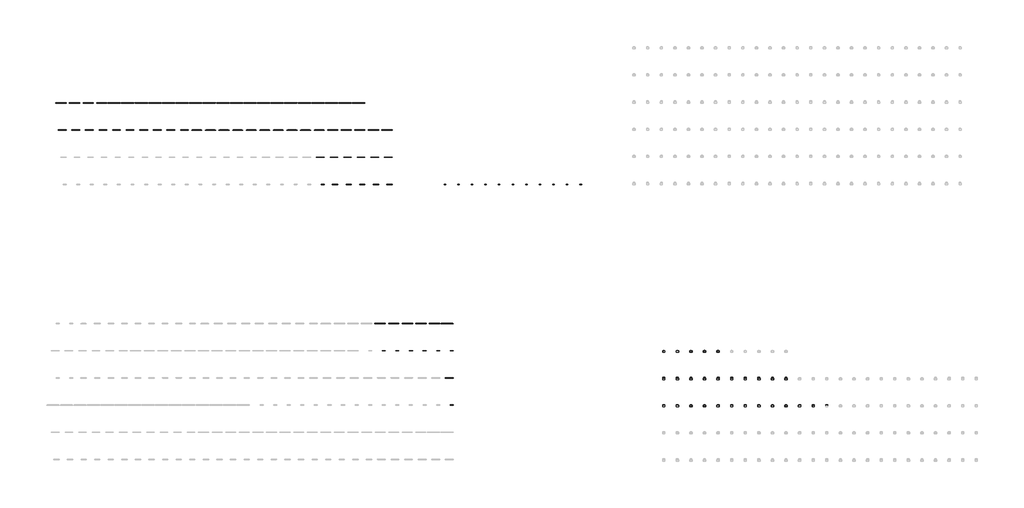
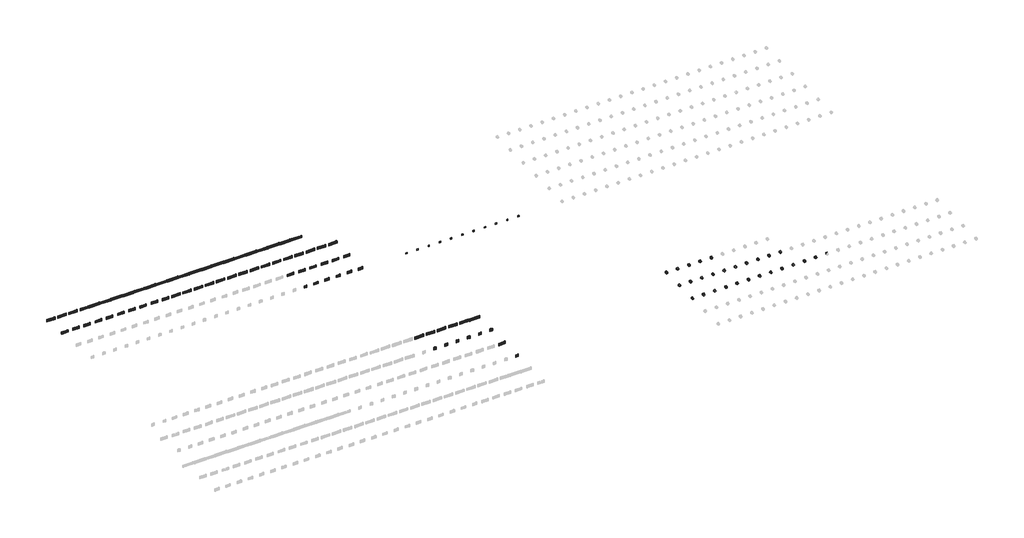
# One storey, part 4 of 18: 113 proxies, 27 cable carrier fittings.
"""IFC4 building model written with IfcOpenShell, lengths in millimetres."""

from ifc_helpers import new_model, si_unit, origin, place, context, project, spatial, transform, mapped, element, save
from components import electrical_fixtures_96edac8a, electrical_fixtures_76136ebe, electrical_fixtures_84155418, electrical_fixtures_f44dfe37, electrical_fixtures_1d4d6cfc, electrical_fixtures_f4518cee, electrical_fixtures_70e5a59e, electrical_fixtures_55b0cb72, electrical_fixtures_51af6a40, electrical_fixtures_b3d71306, electrical_fixtures_850c403c, electrical_fixtures_dbfd30bd, electrical_fixtures_5f74ea1d, electrical_fixtures_3bda5ce9, electrical_fixtures_2aa38369, electrical_fixtures_70c48a39, electrical_fixtures_173ac67f, electrical_fixtures_2d9b2c9f, electrical_fixtures_64208359, electrical_fixtures_7349d3a5, electrical_fixtures_e03153dd, cable_carrier_fitting_a64d4eba

model = new_model("IFC4")

# Units and contexts
model_context = context("Model", 3, world=origin())
ifc_project = project(units=[si_unit("LENGTHUNIT", "METRE", prefix="MILLI")], contexts=[model_context])

# Site, building, storey
site = spatial("IfcSite", under=ifc_project)
building = spatial("IfcBuilding", under=site)
storey = spatial("IfcBuildingStorey", under=building, Name="Этаж 01", Elevation=0.0)

# Proxies
placement = place(None, origin())
electrical_fixtures_shape = electrical_fixtures_96edac8a(model_context)
element("IfcBuildingElementProxy", 1, Name="IEK_Brite_Рамка : x1_РУ-1-2-БрВа стекло ванильный", ObjectType="IEK_Brite_Рамка : x1_РУ-1-2-БрВа стекло ванильный", at=placement, inside=storey, context=model_context, shape_type="MappedRepresentation", body=[
    mapped(electrical_fixtures_shape, transform((12020.0, -15400.0, 0.0), x_axis=(1.0, 0.0, 0.0), y_axis=(0.0, 1.0, 0.0), z_axis=(0.0, 0.0, 1.0))),
])
electrical_fixtures_2_shape = electrical_fixtures_76136ebe(model_context)
element("IfcBuildingElementProxy", 2, Name="IEK_Brite_Рамка : x3_РУ-3-2-Бр стекло песчаный RE", ObjectType="IEK_Brite_Рамка : x3_РУ-3-2-Бр стекло песчаный RE", at=placement, inside=storey, context=model_context, shape_type="MappedRepresentation", body=[
    mapped(electrical_fixtures_2_shape, transform((12020.0, -14600.0, 0.0), x_axis=(1.0, 0.0, 0.0), y_axis=(0.0, 1.0, 0.0), z_axis=(0.0, 0.0, 1.0))),
])
electrical_fixtures_3_shape = electrical_fixtures_84155418(model_context)
element("IfcBuildingElementProxy", 3, Name="IEK_Brite_Рамка : x1_РУ-1-1-Бр металл черн. RE", ObjectType="IEK_Brite_Рамка : x1_РУ-1-1-Бр металл черн. RE", at=placement, inside=storey, context=model_context, shape_type="MappedRepresentation", body=[
    mapped(electrical_fixtures_3_shape, transform((10020.0, -13800.0, 0.0), x_axis=(1.0, 0.0, 0.0), y_axis=(0.0, 1.0, 0.0), z_axis=(0.0, 0.0, 1.0))),
])
element("IfcBuildingElementProxy", 4, Name="IEK_Brite_Рамка : x1_РУ-1-1-Бр металл алюм. RE", ObjectType="IEK_Brite_Рамка : x1_РУ-1-1-Бр металл алюм. RE", at=placement, inside=storey, context=model_context, shape_type="MappedRepresentation", body=[
    mapped(electrical_fixtures_3_shape, transform((10420.0, -13800.0, 0.0), x_axis=(1.0, 0.0, 0.0), y_axis=(0.0, 1.0, 0.0), z_axis=(0.0, 0.0, 1.0))),
])
element("IfcBuildingElementProxy", 5, Name="IEK_Brite_Рамка : x1_РУ-1-1-Бр металл титан RE", ObjectType="IEK_Brite_Рамка : x1_РУ-1-1-Бр металл титан RE", at=placement, inside=storey, context=model_context, shape_type="MappedRepresentation", body=[
    mapped(electrical_fixtures_3_shape, transform((10820.0, -13800.0, 0.0), x_axis=(1.0, 0.0, 0.0), y_axis=(0.0, 1.0, 0.0), z_axis=(0.0, 0.0, 1.0))),
])
element("IfcBuildingElementProxy", 6, Name="IEK_Brite_Рамка : x1_РУ-1-1-Бр металл латунь RE", ObjectType="IEK_Brite_Рамка : x1_РУ-1-1-Бр металл латунь RE", at=placement, inside=storey, context=model_context, shape_type="MappedRepresentation", body=[
    mapped(electrical_fixtures_3_shape, transform((11220.0, -13800.0, 0.0), x_axis=(1.0, 0.0, 0.0), y_axis=(0.0, 1.0, 0.0), z_axis=(0.0, 0.0, 1.0))),
])
element("IfcBuildingElementProxy", 7, Name="IEK_Brite_Рамка : x1_РУ-1-1-Бр металл коричн. RE", ObjectType="IEK_Brite_Рамка : x1_РУ-1-1-Бр металл коричн. RE", at=placement, inside=storey, context=model_context, shape_type="MappedRepresentation", body=[
    mapped(electrical_fixtures_3_shape, transform((11620.0, -13800.0, 0.0), x_axis=(1.0, 0.0, 0.0), y_axis=(0.0, 1.0, 0.0), z_axis=(0.0, 0.0, 1.0))),
])
element("IfcBuildingElementProxy", 8, Name="IEK_Brite_Рамка : x1_РУ-1-1-Бр металл шамп. RE", ObjectType="IEK_Brite_Рамка : x1_РУ-1-1-Бр металл шамп. RE", at=placement, inside=storey, context=model_context, shape_type="MappedRepresentation", body=[
    mapped(electrical_fixtures_3_shape, transform((12020.0, -13800.0, 0.0), x_axis=(1.0, 0.0, 0.0), y_axis=(0.0, 1.0, 0.0), z_axis=(0.0, 0.0, 1.0))),
])
electrical_fixtures_4_shape = electrical_fixtures_f44dfe37(model_context)
element("IfcBuildingElementProxy", 9, Name="IEK_Brite_Рамка : x4_РУ-4-1-Бр металл латунь RE", ObjectType="IEK_Brite_Рамка : x4_РУ-4-1-Бр металл латунь RE", at=placement, inside=storey, context=model_context, shape_type="MappedRepresentation", body=[
    mapped(electrical_fixtures_4_shape, transform((10020.0, -13000.0, 0.0), x_axis=(1.0, 0.0, 0.0), y_axis=(0.0, 1.0, 0.0), z_axis=(0.0, 0.0, 1.0))),
])
element("IfcBuildingElementProxy", 10, Name="IEK_Brite_Рамка : x4_РУ-4-1-Бр металл коричн. RE", ObjectType="IEK_Brite_Рамка : x4_РУ-4-1-Бр металл коричн. RE", at=placement, inside=storey, context=model_context, shape_type="MappedRepresentation", body=[
    mapped(electrical_fixtures_4_shape, transform((10420.0, -13000.0, 0.0), x_axis=(1.0, 0.0, 0.0), y_axis=(0.0, 1.0, 0.0), z_axis=(0.0, 0.0, 1.0))),
])
element("IfcBuildingElementProxy", 11, Name="IEK_Brite_Рамка : x4_РУ-4-1-Бр металл шамп. RE", ObjectType="IEK_Brite_Рамка : x4_РУ-4-1-Бр металл шамп. RE", at=placement, inside=storey, context=model_context, shape_type="MappedRepresentation", body=[
    mapped(electrical_fixtures_4_shape, transform((10820.0, -13000.0, 0.0), x_axis=(1.0, 0.0, 0.0), y_axis=(0.0, 1.0, 0.0), z_axis=(0.0, 0.0, 1.0))),
])
electrical_fixtures_5_shape = electrical_fixtures_1d4d6cfc(model_context)
element("IfcBuildingElementProxy", 12, Name="IEK_Brite_Рамка : x4_РУ-4-1-БрЧ металл черн.", ObjectType="IEK_Brite_Рамка : x4_РУ-4-1-БрЧ металл черн.", at=placement, inside=storey, context=model_context, shape_type="MappedRepresentation", body=[
    mapped(electrical_fixtures_5_shape, transform((11220.0, -13000.0, 0.0), x_axis=(1.0, 0.0, 0.0), y_axis=(0.0, 1.0, 0.0), z_axis=(0.0, 0.0, 1.0))),
])
element("IfcBuildingElementProxy", 13, Name="IEK_Brite_Рамка : x4_РУ-4-1-БрА металл алюм.", ObjectType="IEK_Brite_Рамка : x4_РУ-4-1-БрА металл алюм.", at=placement, inside=storey, context=model_context, shape_type="MappedRepresentation", body=[
    mapped(electrical_fixtures_5_shape, transform((11620.0, -13000.0, 0.0), x_axis=(1.0, 0.0, 0.0), y_axis=(0.0, 1.0, 0.0), z_axis=(0.0, 0.0, 1.0))),
])
electrical_fixtures_6_shape = electrical_fixtures_f4518cee(model_context)
element("IfcBuildingElementProxy", 14, Name="IEK_Brite_Рамка : x5_РУ-5-Бр металл хром-никель", ObjectType="IEK_Brite_Рамка : x5_РУ-5-Бр металл хром-никель", at=placement, inside=storey, context=model_context, shape_type="MappedRepresentation", body=[
    mapped(electrical_fixtures_6_shape, transform((12020.0, -13000.0, 0.0), x_axis=(1.0, 0.0, 0.0), y_axis=(0.0, 1.0, 0.0), z_axis=(0.0, 0.0, 1.0))),
])
electrical_fixtures_7_shape = electrical_fixtures_70e5a59e(model_context)
element("IfcBuildingElementProxy", 15, Name="IEK_Brite_Механизм выключателя : В2 И_ВС10-2-1-БрА", ObjectType="IEK_Brite_Механизм выключателя : В2 И_ВС10-2-1-БрА", at=placement, inside=storey, context=model_context, shape_type="MappedRepresentation", body=[
    mapped(electrical_fixtures_7_shape, transform((18261.6818904, -15400.0, 0.0), x_axis=(1.0, 0.0, 0.0), y_axis=(0.0, 1.0, 0.0), z_axis=(0.0, 0.0, 1.0))),
])
element("IfcBuildingElementProxy", 16, Name="IEK_Brite_Механизм выключателя : В2 И_ВС10-2-1-БрБ", ObjectType="IEK_Brite_Механизм выключателя : В2 И_ВС10-2-1-БрБ", at=placement, inside=storey, context=model_context, shape_type="MappedRepresentation", body=[
    mapped(electrical_fixtures_7_shape, transform((18661.6818904, -15400.0, 0.0), x_axis=(1.0, 0.0, 0.0), y_axis=(0.0, 1.0, 0.0), z_axis=(0.0, 0.0, 1.0))),
])
element("IfcBuildingElementProxy", 17, Name="IEK_Brite_Механизм выключателя : В2 И_ВС10-2-1-БрГ", ObjectType="IEK_Brite_Механизм выключателя : В2 И_ВС10-2-1-БрГ", at=placement, inside=storey, context=model_context, shape_type="MappedRepresentation", body=[
    mapped(electrical_fixtures_7_shape, transform((19061.6818904, -15400.0, 0.0), x_axis=(1.0, 0.0, 0.0), y_axis=(0.0, 1.0, 0.0), z_axis=(0.0, 0.0, 1.0))),
])
element("IfcBuildingElementProxy", 18, Name="IEK_Brite_Механизм выключателя : В2 И_ВС10-2-1-БрЖ", ObjectType="IEK_Brite_Механизм выключателя : В2 И_ВС10-2-1-БрЖ", at=placement, inside=storey, context=model_context, shape_type="MappedRepresentation", body=[
    mapped(electrical_fixtures_7_shape, transform((19461.6818904, -15400.0, 0.0), x_axis=(1.0, 0.0, 0.0), y_axis=(0.0, 1.0, 0.0), z_axis=(0.0, 0.0, 1.0))),
])
element("IfcBuildingElementProxy", 19, Name="IEK_Brite_Механизм выключателя : В2 И_ВС10-2-1-БрКр", ObjectType="IEK_Brite_Механизм выключателя : В2 И_ВС10-2-1-БрКр", at=placement, inside=storey, context=model_context, shape_type="MappedRepresentation", body=[
    mapped(electrical_fixtures_7_shape, transform((19861.6818904, -15400.0, 0.0), x_axis=(1.0, 0.0, 0.0), y_axis=(0.0, 1.0, 0.0), z_axis=(0.0, 0.0, 1.0))),
])
element("IfcBuildingElementProxy", 20, Name="IEK_Brite_Механизм выключателя : В2 И_ВС10-2-1-БрМ", ObjectType="IEK_Brite_Механизм выключателя : В2 И_ВС10-2-1-БрМ", at=placement, inside=storey, context=model_context, shape_type="MappedRepresentation", body=[
    mapped(electrical_fixtures_7_shape, transform((20261.6818904, -15400.0, 0.0), x_axis=(1.0, 0.0, 0.0), y_axis=(0.0, 1.0, 0.0), z_axis=(0.0, 0.0, 1.0))),
])
element("IfcBuildingElementProxy", 21, Name="IEK_Brite_Механизм выключателя : В2 И_ВС10-2-1-БрС", ObjectType="IEK_Brite_Механизм выключателя : В2 И_ВС10-2-1-БрС", at=placement, inside=storey, context=model_context, shape_type="MappedRepresentation", body=[
    mapped(electrical_fixtures_7_shape, transform((20661.6818904, -15400.0, 0.0), x_axis=(1.0, 0.0, 0.0), y_axis=(0.0, 1.0, 0.0), z_axis=(0.0, 0.0, 1.0))),
])
element("IfcBuildingElementProxy", 22, Name="IEK_Brite_Механизм выключателя : В2 И_ВС10-2-1-БрТБ", ObjectType="IEK_Brite_Механизм выключателя : В2 И_ВС10-2-1-БрТБ", at=placement, inside=storey, context=model_context, shape_type="MappedRepresentation", body=[
    mapped(electrical_fixtures_7_shape, transform((21061.6818904, -15400.0, 0.0), x_axis=(1.0, 0.0, 0.0), y_axis=(0.0, 1.0, 0.0), z_axis=(0.0, 0.0, 1.0))),
])
element("IfcBuildingElementProxy", 23, Name="IEK_Brite_Механизм выключателя : В2 И_ВС10-2-1-БрЧ", ObjectType="IEK_Brite_Механизм выключателя : В2 И_ВС10-2-1-БрЧ", at=placement, inside=storey, context=model_context, shape_type="MappedRepresentation", body=[
    mapped(electrical_fixtures_7_shape, transform((21461.6818904, -15400.0, 0.0), x_axis=(1.0, 0.0, 0.0), y_axis=(0.0, 1.0, 0.0), z_axis=(0.0, 0.0, 1.0))),
])
element("IfcBuildingElementProxy", 24, Name="IEK_Brite_Механизм выключателя : В2 И_ВС10-2-1-БрШ", ObjectType="IEK_Brite_Механизм выключателя : В2 И_ВС10-2-1-БрШ", at=placement, inside=storey, context=model_context, shape_type="MappedRepresentation", body=[
    mapped(electrical_fixtures_7_shape, transform((21861.6818904, -15400.0, 0.0), x_axis=(1.0, 0.0, 0.0), y_axis=(0.0, 1.0, 0.0), z_axis=(0.0, 0.0, 1.0))),
])
element("IfcBuildingElementProxy", 25, Name="IEK_Brite_Механизм выключателя : В2 ИО_ВС10-2-9-БрА", ObjectType="IEK_Brite_Механизм выключателя : В2 ИО_ВС10-2-9-БрА", at=placement, inside=storey, context=model_context, shape_type="MappedRepresentation", body=[
    mapped(electrical_fixtures_7_shape, transform((22261.6818904, -15400.0, 0.0), x_axis=(1.0, 0.0, 0.0), y_axis=(0.0, 1.0, 0.0), z_axis=(0.0, 0.0, 1.0))),
])
element("IfcBuildingElementProxy", 26, Name="IEK_Brite_Механизм выключателя : В2 ИО_ВС10-2-9-БрБ", ObjectType="IEK_Brite_Механизм выключателя : В2 ИО_ВС10-2-9-БрБ", at=placement, inside=storey, context=model_context, shape_type="MappedRepresentation", body=[
    mapped(electrical_fixtures_7_shape, transform((22661.6818904, -15400.0, 0.0), x_axis=(1.0, 0.0, 0.0), y_axis=(0.0, 1.0, 0.0), z_axis=(0.0, 0.0, 1.0))),
])
element("IfcBuildingElementProxy", 27, Name="IEK_Brite_Механизм выключателя : В2 ИО_ВС10-2-9-БрГ", ObjectType="IEK_Brite_Механизм выключателя : В2 ИО_ВС10-2-9-БрГ", at=placement, inside=storey, context=model_context, shape_type="MappedRepresentation", body=[
    mapped(electrical_fixtures_7_shape, transform((23061.6818904, -15400.0, 0.0), x_axis=(1.0, 0.0, 0.0), y_axis=(0.0, 1.0, 0.0), z_axis=(0.0, 0.0, 1.0))),
])
electrical_fixtures_8_shape = electrical_fixtures_55b0cb72(model_context)
element("IfcBuildingElementProxy", 28, Name="IEK_Brite_Механизм выключателя : ВЖ_ВС10-1-5-БрА", ObjectType="IEK_Brite_Механизм выключателя : ВЖ_ВС10-1-5-БрА", at=placement, inside=storey, context=model_context, shape_type="MappedRepresentation", body=[
    mapped(electrical_fixtures_8_shape, transform((18261.6818904, -14600.0, 0.0), x_axis=(1.0, 0.0, 0.0), y_axis=(0.0, 1.0, 0.0), z_axis=(0.0, 0.0, 1.0))),
])
element("IfcBuildingElementProxy", 29, Name="IEK_Brite_Механизм выключателя : ВЖ_ВС10-1-5-БрБ", ObjectType="IEK_Brite_Механизм выключателя : ВЖ_ВС10-1-5-БрБ", at=placement, inside=storey, context=model_context, shape_type="MappedRepresentation", body=[
    mapped(electrical_fixtures_8_shape, transform((18661.6818904, -14600.0, 0.0), x_axis=(1.0, 0.0, 0.0), y_axis=(0.0, 1.0, 0.0), z_axis=(0.0, 0.0, 1.0))),
])
element("IfcBuildingElementProxy", 30, Name="IEK_Brite_Механизм выключателя : ВЖ_ВС10-1-5-БрГ", ObjectType="IEK_Brite_Механизм выключателя : ВЖ_ВС10-1-5-БрГ", at=placement, inside=storey, context=model_context, shape_type="MappedRepresentation", body=[
    mapped(electrical_fixtures_8_shape, transform((19061.6818904, -14600.0, 0.0), x_axis=(1.0, 0.0, 0.0), y_axis=(0.0, 1.0, 0.0), z_axis=(0.0, 0.0, 1.0))),
])
element("IfcBuildingElementProxy", 31, Name="IEK_Brite_Механизм выключателя : ВЖ_ВС10-1-5-БрЖ", ObjectType="IEK_Brite_Механизм выключателя : ВЖ_ВС10-1-5-БрЖ", at=placement, inside=storey, context=model_context, shape_type="MappedRepresentation", body=[
    mapped(electrical_fixtures_8_shape, transform((19461.6818904, -14600.0, 0.0), x_axis=(1.0, 0.0, 0.0), y_axis=(0.0, 1.0, 0.0), z_axis=(0.0, 0.0, 1.0))),
])
element("IfcBuildingElementProxy", 32, Name="IEK_Brite_Механизм выключателя : ВЖ_ВС10-1-5-БрКр", ObjectType="IEK_Brite_Механизм выключателя : ВЖ_ВС10-1-5-БрКр", at=placement, inside=storey, context=model_context, shape_type="MappedRepresentation", body=[
    mapped(electrical_fixtures_8_shape, transform((19861.6818904, -14600.0, 0.0), x_axis=(1.0, 0.0, 0.0), y_axis=(0.0, 1.0, 0.0), z_axis=(0.0, 0.0, 1.0))),
])
element("IfcBuildingElementProxy", 33, Name="IEK_Brite_Механизм выключателя : ВЖ_ВС10-1-5-БрМ", ObjectType="IEK_Brite_Механизм выключателя : ВЖ_ВС10-1-5-БрМ", at=placement, inside=storey, context=model_context, shape_type="MappedRepresentation", body=[
    mapped(electrical_fixtures_8_shape, transform((20261.6818904, -14600.0, 0.0), x_axis=(1.0, 0.0, 0.0), y_axis=(0.0, 1.0, 0.0), z_axis=(0.0, 0.0, 1.0))),
])
element("IfcBuildingElementProxy", 34, Name="IEK_Brite_Механизм выключателя : ВЖ_ВС10-1-5-БрС", ObjectType="IEK_Brite_Механизм выключателя : ВЖ_ВС10-1-5-БрС", at=placement, inside=storey, context=model_context, shape_type="MappedRepresentation", body=[
    mapped(electrical_fixtures_8_shape, transform((20661.6818904, -14600.0, 0.0), x_axis=(1.0, 0.0, 0.0), y_axis=(0.0, 1.0, 0.0), z_axis=(0.0, 0.0, 1.0))),
])
element("IfcBuildingElementProxy", 35, Name="IEK_Brite_Механизм выключателя : ВЖ_ВС10-1-5-БрТБ", ObjectType="IEK_Brite_Механизм выключателя : ВЖ_ВС10-1-5-БрТБ", at=placement, inside=storey, context=model_context, shape_type="MappedRepresentation", body=[
    mapped(electrical_fixtures_8_shape, transform((21061.6818904, -14600.0, 0.0), x_axis=(1.0, 0.0, 0.0), y_axis=(0.0, 1.0, 0.0), z_axis=(0.0, 0.0, 1.0))),
])
element("IfcBuildingElementProxy", 36, Name="IEK_Brite_Механизм выключателя : ВЖ_ВС10-1-5-БрЧ", ObjectType="IEK_Brite_Механизм выключателя : ВЖ_ВС10-1-5-БрЧ", at=placement, inside=storey, context=model_context, shape_type="MappedRepresentation", body=[
    mapped(electrical_fixtures_8_shape, transform((21461.6818904, -14600.0, 0.0), x_axis=(1.0, 0.0, 0.0), y_axis=(0.0, 1.0, 0.0), z_axis=(0.0, 0.0, 1.0))),
])
element("IfcBuildingElementProxy", 37, Name="IEK_Brite_Механизм выключателя : ВЖ_ВС10-1-5-БрШ", ObjectType="IEK_Brite_Механизм выключателя : ВЖ_ВС10-1-5-БрШ", at=placement, inside=storey, context=model_context, shape_type="MappedRepresentation", body=[
    mapped(electrical_fixtures_8_shape, transform((21861.6818904, -14600.0, 0.0), x_axis=(1.0, 0.0, 0.0), y_axis=(0.0, 1.0, 0.0), z_axis=(0.0, 0.0, 1.0))),
])
electrical_fixtures_9_shape = electrical_fixtures_51af6a40(model_context)
element("IfcBuildingElementProxy", 38, Name="IEK_Brite_Механизм выключателя : ДД_ДС10-1-БрА", ObjectType="IEK_Brite_Механизм выключателя : ДД_ДС10-1-БрА", at=placement, inside=storey, context=model_context, shape_type="MappedRepresentation", body=[
    mapped(electrical_fixtures_9_shape, transform((18261.6818904, -13800.0, 0.0), x_axis=(1.0, 0.0, 0.0), y_axis=(0.0, 1.0, 0.0), z_axis=(0.0, 0.0, 1.0))),
])
element("IfcBuildingElementProxy", 39, Name="IEK_Brite_Механизм выключателя : ДД_ДС10-1-БрБ", ObjectType="IEK_Brite_Механизм выключателя : ДД_ДС10-1-БрБ", at=placement, inside=storey, context=model_context, shape_type="MappedRepresentation", body=[
    mapped(electrical_fixtures_9_shape, transform((18661.6818904, -13800.0, 0.0), x_axis=(1.0, 0.0, 0.0), y_axis=(0.0, 1.0, 0.0), z_axis=(0.0, 0.0, 1.0))),
])
element("IfcBuildingElementProxy", 40, Name="IEK_Brite_Механизм выключателя : ДД_ДС10-1-БрГ", ObjectType="IEK_Brite_Механизм выключателя : ДД_ДС10-1-БрГ", at=placement, inside=storey, context=model_context, shape_type="MappedRepresentation", body=[
    mapped(electrical_fixtures_9_shape, transform((19061.6818904, -13800.0, 0.0), x_axis=(1.0, 0.0, 0.0), y_axis=(0.0, 1.0, 0.0), z_axis=(0.0, 0.0, 1.0))),
])
element("IfcBuildingElementProxy", 41, Name="IEK_Brite_Механизм выключателя : ДД_ДС10-1-БрЖ", ObjectType="IEK_Brite_Механизм выключателя : ДД_ДС10-1-БрЖ", at=placement, inside=storey, context=model_context, shape_type="MappedRepresentation", body=[
    mapped(electrical_fixtures_9_shape, transform((19461.6818904, -13800.0, 0.0), x_axis=(1.0, 0.0, 0.0), y_axis=(0.0, 1.0, 0.0), z_axis=(0.0, 0.0, 1.0))),
])
element("IfcBuildingElementProxy", 42, Name="IEK_Brite_Механизм выключателя : ДД_ДС10-1-БрКр", ObjectType="IEK_Brite_Механизм выключателя : ДД_ДС10-1-БрКр", at=placement, inside=storey, context=model_context, shape_type="MappedRepresentation", body=[
    mapped(electrical_fixtures_9_shape, transform((19861.6818904, -13800.0, 0.0), x_axis=(1.0, 0.0, 0.0), y_axis=(0.0, 1.0, 0.0), z_axis=(0.0, 0.0, 1.0))),
])
electrical_fixtures_10_shape = electrical_fixtures_b3d71306(model_context)
element("IfcBuildingElementProxy", 43, Name="IEK_Skandy_Рамка : x1_SK-F31Sh", ObjectType="IEK_Skandy_Рамка : x1_SK-F31Sh", at=placement, inside=storey, context=model_context, shape_type="MappedRepresentation", body=[
    mapped(electrical_fixtures_10_shape, transform((8222.6982604, -8905.0, 0.0), x_axis=(1.0, 0.0, 0.0), y_axis=(0.0, 1.0, 0.0), z_axis=(0.0, 0.0, 1.0))),
])
electrical_fixtures_11_shape = electrical_fixtures_850c403c(model_context)
element("IfcBuildingElementProxy", 44, Name="IEK_Skandy_Рамка : x2_SK-F02B", ObjectType="IEK_Skandy_Рамка : x2_SK-F02B", at=placement, inside=storey, context=model_context, shape_type="MappedRepresentation", body=[
    mapped(electrical_fixtures_11_shape, transform((8622.6982604, -8905.0, 0.0), x_axis=(1.0, 0.0, 0.0), y_axis=(0.0, 1.0, 0.0), z_axis=(0.0, 0.0, 1.0))),
])
element("IfcBuildingElementProxy", 45, Name="IEK_Skandy_Рамка : x2_SK-F02Bl", ObjectType="IEK_Skandy_Рамка : x2_SK-F02Bl", at=placement, inside=storey, context=model_context, shape_type="MappedRepresentation", body=[
    mapped(electrical_fixtures_11_shape, transform((9022.6982604, -8905.0, 0.0), x_axis=(1.0, 0.0, 0.0), y_axis=(0.0, 1.0, 0.0), z_axis=(0.0, 0.0, 1.0))),
])
element("IfcBuildingElementProxy", 46, Name="IEK_Skandy_Рамка : x2_SK-F02G", ObjectType="IEK_Skandy_Рамка : x2_SK-F02G", at=placement, inside=storey, context=model_context, shape_type="MappedRepresentation", body=[
    mapped(electrical_fixtures_11_shape, transform((9422.6982604, -8905.0, 0.0), x_axis=(1.0, 0.0, 0.0), y_axis=(0.0, 1.0, 0.0), z_axis=(0.0, 0.0, 1.0))),
])
element("IfcBuildingElementProxy", 47, Name="IEK_Skandy_Рамка : x2_SK-F02Gr", ObjectType="IEK_Skandy_Рамка : x2_SK-F02Gr", at=placement, inside=storey, context=model_context, shape_type="MappedRepresentation", body=[
    mapped(electrical_fixtures_11_shape, transform((9822.6982604, -8905.0, 0.0), x_axis=(1.0, 0.0, 0.0), y_axis=(0.0, 1.0, 0.0), z_axis=(0.0, 0.0, 1.0))),
])
element("IfcBuildingElementProxy", 48, Name="IEK_Skandy_Рамка : x2_SK-F02M", ObjectType="IEK_Skandy_Рамка : x2_SK-F02M", at=placement, inside=storey, context=model_context, shape_type="MappedRepresentation", body=[
    mapped(electrical_fixtures_11_shape, transform((10222.6982604, -8905.0, 0.0), x_axis=(1.0, 0.0, 0.0), y_axis=(0.0, 1.0, 0.0), z_axis=(0.0, 0.0, 1.0))),
])
electrical_fixtures_12_shape = electrical_fixtures_dbfd30bd(model_context)
element("IfcBuildingElementProxy", 49, Name="IEK_Skandy_Рамка : x3_SK-F03M", ObjectType="IEK_Skandy_Рамка : x3_SK-F03M", at=placement, inside=storey, context=model_context, shape_type="MappedRepresentation", body=[
    mapped(electrical_fixtures_12_shape, transform((8222.6982604, -8105.0, 0.0), x_axis=(1.0, 0.0, 0.0), y_axis=(0.0, 1.0, 0.0), z_axis=(0.0, 0.0, 1.0))),
])
element("IfcBuildingElementProxy", 50, Name="IEK_Skandy_Рамка : x3_SK-F03S", ObjectType="IEK_Skandy_Рамка : x3_SK-F03S", at=placement, inside=storey, context=model_context, shape_type="MappedRepresentation", body=[
    mapped(electrical_fixtures_12_shape, transform((8622.6982604, -8105.0, 0.0), x_axis=(1.0, 0.0, 0.0), y_axis=(0.0, 1.0, 0.0), z_axis=(0.0, 0.0, 1.0))),
])
element("IfcBuildingElementProxy", 51, Name="IEK_Skandy_Рамка : x3_SK-F03Sa", ObjectType="IEK_Skandy_Рамка : x3_SK-F03Sa", at=placement, inside=storey, context=model_context, shape_type="MappedRepresentation", body=[
    mapped(electrical_fixtures_12_shape, transform((9022.6982604, -8105.0, 0.0), x_axis=(1.0, 0.0, 0.0), y_axis=(0.0, 1.0, 0.0), z_axis=(0.0, 0.0, 1.0))),
])
element("IfcBuildingElementProxy", 52, Name="IEK_Skandy_Рамка : x3_SK-F03Sh", ObjectType="IEK_Skandy_Рамка : x3_SK-F03Sh", at=placement, inside=storey, context=model_context, shape_type="MappedRepresentation", body=[
    mapped(electrical_fixtures_12_shape, transform((9422.6982604, -8105.0, 0.0), x_axis=(1.0, 0.0, 0.0), y_axis=(0.0, 1.0, 0.0), z_axis=(0.0, 0.0, 1.0))),
])
element("IfcBuildingElementProxy", 53, Name="IEK_Skandy_Рамка : x3_SK-F03T", ObjectType="IEK_Skandy_Рамка : x3_SK-F03T", at=placement, inside=storey, context=model_context, shape_type="MappedRepresentation", body=[
    mapped(electrical_fixtures_12_shape, transform((9822.6982604, -8105.0, 0.0), x_axis=(1.0, 0.0, 0.0), y_axis=(0.0, 1.0, 0.0), z_axis=(0.0, 0.0, 1.0))),
])
element("IfcBuildingElementProxy", 54, Name="IEK_Skandy_Рамка : x3_SK-F03W", ObjectType="IEK_Skandy_Рамка : x3_SK-F03W", at=placement, inside=storey, context=model_context, shape_type="MappedRepresentation", body=[
    mapped(electrical_fixtures_12_shape, transform((10222.6982604, -8105.0, 0.0), x_axis=(1.0, 0.0, 0.0), y_axis=(0.0, 1.0, 0.0), z_axis=(0.0, 0.0, 1.0))),
])
electrical_fixtures_13_shape = electrical_fixtures_5f74ea1d(model_context)
element("IfcBuildingElementProxy", 55, Name="IEK_Skandy_Рамка : x3_SK-F23B", ObjectType="IEK_Skandy_Рамка : x3_SK-F23B", at=placement, inside=storey, context=model_context, shape_type="MappedRepresentation", body=[
    mapped(electrical_fixtures_13_shape, transform((622.6982604, -7305.0, 0.0), x_axis=(1.0, 0.0, 0.0), y_axis=(0.0, 1.0, 0.0), z_axis=(0.0, 0.0, 1.0))),
])
element("IfcBuildingElementProxy", 56, Name="IEK_Skandy_Рамка : x3_SK-F23Bl", ObjectType="IEK_Skandy_Рамка : x3_SK-F23Bl", at=placement, inside=storey, context=model_context, shape_type="MappedRepresentation", body=[
    mapped(electrical_fixtures_13_shape, transform((1022.6982604, -7305.0, 0.0), x_axis=(1.0, 0.0, 0.0), y_axis=(0.0, 1.0, 0.0), z_axis=(0.0, 0.0, 1.0))),
])
element("IfcBuildingElementProxy", 57, Name="IEK_Skandy_Рамка : x3_SK-F23G", ObjectType="IEK_Skandy_Рамка : x3_SK-F23G", at=placement, inside=storey, context=model_context, shape_type="MappedRepresentation", body=[
    mapped(electrical_fixtures_13_shape, transform((1422.6982604, -7305.0, 0.0), x_axis=(1.0, 0.0, 0.0), y_axis=(0.0, 1.0, 0.0), z_axis=(0.0, 0.0, 1.0))),
])
element("IfcBuildingElementProxy", 58, Name="IEK_Skandy_Рамка : x3_SK-F23Sh", ObjectType="IEK_Skandy_Рамка : x3_SK-F23Sh", at=placement, inside=storey, context=model_context, shape_type="MappedRepresentation", body=[
    mapped(electrical_fixtures_13_shape, transform((1822.6982604, -7305.0, 0.0), x_axis=(1.0, 0.0, 0.0), y_axis=(0.0, 1.0, 0.0), z_axis=(0.0, 0.0, 1.0))),
])
element("IfcBuildingElementProxy", 59, Name="IEK_Skandy_Рамка : x3_SK-F23W", ObjectType="IEK_Skandy_Рамка : x3_SK-F23W", at=placement, inside=storey, context=model_context, shape_type="MappedRepresentation", body=[
    mapped(electrical_fixtures_13_shape, transform((2222.6982604, -7305.0, 0.0), x_axis=(1.0, 0.0, 0.0), y_axis=(0.0, 1.0, 0.0), z_axis=(0.0, 0.0, 1.0))),
])
electrical_fixtures_14_shape = electrical_fixtures_3bda5ce9(model_context)
element("IfcBuildingElementProxy", 60, Name="IEK_Skandy_Рамка : x3_SK-F33Bl", ObjectType="IEK_Skandy_Рамка : x3_SK-F33Bl", at=placement, inside=storey, context=model_context, shape_type="MappedRepresentation", body=[
    mapped(electrical_fixtures_14_shape, transform((2622.6982604, -7305.0, 0.0), x_axis=(1.0, 0.0, 0.0), y_axis=(0.0, 1.0, 0.0), z_axis=(0.0, 0.0, 1.0))),
])
element("IfcBuildingElementProxy", 61, Name="IEK_Skandy_Рамка : x3_SK-F33Br", ObjectType="IEK_Skandy_Рамка : x3_SK-F33Br", at=placement, inside=storey, context=model_context, shape_type="MappedRepresentation", body=[
    mapped(electrical_fixtures_14_shape, transform((3022.6982604, -7305.0, 0.0), x_axis=(1.0, 0.0, 0.0), y_axis=(0.0, 1.0, 0.0), z_axis=(0.0, 0.0, 1.0))),
])
element("IfcBuildingElementProxy", 62, Name="IEK_Skandy_Рамка : x3_SK-F33N", ObjectType="IEK_Skandy_Рамка : x3_SK-F33N", at=placement, inside=storey, context=model_context, shape_type="MappedRepresentation", body=[
    mapped(electrical_fixtures_14_shape, transform((3422.6982604, -7305.0, 0.0), x_axis=(1.0, 0.0, 0.0), y_axis=(0.0, 1.0, 0.0), z_axis=(0.0, 0.0, 1.0))),
])
element("IfcBuildingElementProxy", 63, Name="IEK_Skandy_Рамка : x3_SK-F33S", ObjectType="IEK_Skandy_Рамка : x3_SK-F33S", at=placement, inside=storey, context=model_context, shape_type="MappedRepresentation", body=[
    mapped(electrical_fixtures_14_shape, transform((3822.6982604, -7305.0, 0.0), x_axis=(1.0, 0.0, 0.0), y_axis=(0.0, 1.0, 0.0), z_axis=(0.0, 0.0, 1.0))),
])
element("IfcBuildingElementProxy", 64, Name="IEK_Skandy_Рамка : x3_SK-F33Sh", ObjectType="IEK_Skandy_Рамка : x3_SK-F33Sh", at=placement, inside=storey, context=model_context, shape_type="MappedRepresentation", body=[
    mapped(electrical_fixtures_14_shape, transform((4222.6982604, -7305.0, 0.0), x_axis=(1.0, 0.0, 0.0), y_axis=(0.0, 1.0, 0.0), z_axis=(0.0, 0.0, 1.0))),
])
electrical_fixtures_15_shape = electrical_fixtures_2aa38369(model_context)
element("IfcBuildingElementProxy", 65, Name="IEK_Skandy_Рамка : x4_SK-F04B", ObjectType="IEK_Skandy_Рамка : x4_SK-F04B", at=placement, inside=storey, context=model_context, shape_type="MappedRepresentation", body=[
    mapped(electrical_fixtures_15_shape, transform((4622.6982604, -7305.0, 0.0), x_axis=(1.0, 0.0, 0.0), y_axis=(0.0, 1.0, 0.0), z_axis=(0.0, 0.0, 1.0))),
])
element("IfcBuildingElementProxy", 66, Name="IEK_Skandy_Рамка : x4_SK-F04Bl", ObjectType="IEK_Skandy_Рамка : x4_SK-F04Bl", at=placement, inside=storey, context=model_context, shape_type="MappedRepresentation", body=[
    mapped(electrical_fixtures_15_shape, transform((5022.6982604, -7305.0, 0.0), x_axis=(1.0, 0.0, 0.0), y_axis=(0.0, 1.0, 0.0), z_axis=(0.0, 0.0, 1.0))),
])
element("IfcBuildingElementProxy", 67, Name="IEK_Skandy_Рамка : x4_SK-F04G", ObjectType="IEK_Skandy_Рамка : x4_SK-F04G", at=placement, inside=storey, context=model_context, shape_type="MappedRepresentation", body=[
    mapped(electrical_fixtures_15_shape, transform((5422.6982604, -7305.0, 0.0), x_axis=(1.0, 0.0, 0.0), y_axis=(0.0, 1.0, 0.0), z_axis=(0.0, 0.0, 1.0))),
])
element("IfcBuildingElementProxy", 68, Name="IEK_Skandy_Рамка : x4_SK-F04Gr", ObjectType="IEK_Skandy_Рамка : x4_SK-F04Gr", at=placement, inside=storey, context=model_context, shape_type="MappedRepresentation", body=[
    mapped(electrical_fixtures_15_shape, transform((5822.6982604, -7305.0, 0.0), x_axis=(1.0, 0.0, 0.0), y_axis=(0.0, 1.0, 0.0), z_axis=(0.0, 0.0, 1.0))),
])
element("IfcBuildingElementProxy", 69, Name="IEK_Skandy_Рамка : x4_SK-F04M", ObjectType="IEK_Skandy_Рамка : x4_SK-F04M", at=placement, inside=storey, context=model_context, shape_type="MappedRepresentation", body=[
    mapped(electrical_fixtures_15_shape, transform((6222.6982604, -7305.0, 0.0), x_axis=(1.0, 0.0, 0.0), y_axis=(0.0, 1.0, 0.0), z_axis=(0.0, 0.0, 1.0))),
])
element("IfcBuildingElementProxy", 70, Name="IEK_Skandy_Рамка : x4_SK-F04S", ObjectType="IEK_Skandy_Рамка : x4_SK-F04S", at=placement, inside=storey, context=model_context, shape_type="MappedRepresentation", body=[
    mapped(electrical_fixtures_15_shape, transform((6622.6982604, -7305.0, 0.0), x_axis=(1.0, 0.0, 0.0), y_axis=(0.0, 1.0, 0.0), z_axis=(0.0, 0.0, 1.0))),
])
element("IfcBuildingElementProxy", 71, Name="IEK_Skandy_Рамка : x4_SK-F04Sa", ObjectType="IEK_Skandy_Рамка : x4_SK-F04Sa", at=placement, inside=storey, context=model_context, shape_type="MappedRepresentation", body=[
    mapped(electrical_fixtures_15_shape, transform((7022.6982604, -7305.0, 0.0), x_axis=(1.0, 0.0, 0.0), y_axis=(0.0, 1.0, 0.0), z_axis=(0.0, 0.0, 1.0))),
])
element("IfcBuildingElementProxy", 72, Name="IEK_Skandy_Рамка : x4_SK-F04Sh", ObjectType="IEK_Skandy_Рамка : x4_SK-F04Sh", at=placement, inside=storey, context=model_context, shape_type="MappedRepresentation", body=[
    mapped(electrical_fixtures_15_shape, transform((7422.6982604, -7305.0, 0.0), x_axis=(1.0, 0.0, 0.0), y_axis=(0.0, 1.0, 0.0), z_axis=(0.0, 0.0, 1.0))),
])
element("IfcBuildingElementProxy", 73, Name="IEK_Skandy_Рамка : x4_SK-F04T", ObjectType="IEK_Skandy_Рамка : x4_SK-F04T", at=placement, inside=storey, context=model_context, shape_type="MappedRepresentation", body=[
    mapped(electrical_fixtures_15_shape, transform((7822.6982604, -7305.0, 0.0), x_axis=(1.0, 0.0, 0.0), y_axis=(0.0, 1.0, 0.0), z_axis=(0.0, 0.0, 1.0))),
])
element("IfcBuildingElementProxy", 74, Name="IEK_Skandy_Рамка : x4_SK-F04W", ObjectType="IEK_Skandy_Рамка : x4_SK-F04W", at=placement, inside=storey, context=model_context, shape_type="MappedRepresentation", body=[
    mapped(electrical_fixtures_15_shape, transform((8222.6982604, -7305.0, 0.0), x_axis=(1.0, 0.0, 0.0), y_axis=(0.0, 1.0, 0.0), z_axis=(0.0, 0.0, 1.0))),
])
electrical_fixtures_16_shape = electrical_fixtures_70c48a39(model_context)
element("IfcBuildingElementProxy", 75, Name="IEK_Skandy_Рамка : x4_SK-F24B", ObjectType="IEK_Skandy_Рамка : x4_SK-F24B", at=placement, inside=storey, context=model_context, shape_type="MappedRepresentation", body=[
    mapped(electrical_fixtures_16_shape, transform((8622.6982604, -7305.0, 0.0), x_axis=(1.0, 0.0, 0.0), y_axis=(0.0, 1.0, 0.0), z_axis=(0.0, 0.0, 1.0))),
])
element("IfcBuildingElementProxy", 76, Name="IEK_Skandy_Рамка : x4_SK-F24Bl", ObjectType="IEK_Skandy_Рамка : x4_SK-F24Bl", at=placement, inside=storey, context=model_context, shape_type="MappedRepresentation", body=[
    mapped(electrical_fixtures_16_shape, transform((9022.6982604, -7305.0, 0.0), x_axis=(1.0, 0.0, 0.0), y_axis=(0.0, 1.0, 0.0), z_axis=(0.0, 0.0, 1.0))),
])
element("IfcBuildingElementProxy", 77, Name="IEK_Skandy_Рамка : x4_SK-F24G", ObjectType="IEK_Skandy_Рамка : x4_SK-F24G", at=placement, inside=storey, context=model_context, shape_type="MappedRepresentation", body=[
    mapped(electrical_fixtures_16_shape, transform((9422.6982604, -7305.0, 0.0), x_axis=(1.0, 0.0, 0.0), y_axis=(0.0, 1.0, 0.0), z_axis=(0.0, 0.0, 1.0))),
])
element("IfcBuildingElementProxy", 78, Name="IEK_Skandy_Рамка : x4_SK-F24Sh", ObjectType="IEK_Skandy_Рамка : x4_SK-F24Sh", at=placement, inside=storey, context=model_context, shape_type="MappedRepresentation", body=[
    mapped(electrical_fixtures_16_shape, transform((9822.6982604, -7305.0, 0.0), x_axis=(1.0, 0.0, 0.0), y_axis=(0.0, 1.0, 0.0), z_axis=(0.0, 0.0, 1.0))),
])
element("IfcBuildingElementProxy", 79, Name="IEK_Skandy_Рамка : x4_SK-F24W", ObjectType="IEK_Skandy_Рамка : x4_SK-F24W", at=placement, inside=storey, context=model_context, shape_type="MappedRepresentation", body=[
    mapped(electrical_fixtures_16_shape, transform((10222.6982604, -7305.0, 0.0), x_axis=(1.0, 0.0, 0.0), y_axis=(0.0, 1.0, 0.0), z_axis=(0.0, 0.0, 1.0))),
])
electrical_fixtures_17_shape = electrical_fixtures_173ac67f(model_context)
element("IfcBuildingElementProxy", 80, Name="IEK_Skandy_Рамка : x4_SK-F34Bl", ObjectType="IEK_Skandy_Рамка : x4_SK-F34Bl", at=placement, inside=storey, context=model_context, shape_type="MappedRepresentation", body=[
    mapped(electrical_fixtures_17_shape, transform((622.6982604, -6505.0, 0.0), x_axis=(1.0, 0.0, 0.0), y_axis=(0.0, 1.0, 0.0), z_axis=(0.0, 0.0, 1.0))),
])
element("IfcBuildingElementProxy", 81, Name="IEK_Skandy_Рамка : x4_SK-F34Br", ObjectType="IEK_Skandy_Рамка : x4_SK-F34Br", at=placement, inside=storey, context=model_context, shape_type="MappedRepresentation", body=[
    mapped(electrical_fixtures_17_shape, transform((1022.6982604, -6505.0, 0.0), x_axis=(1.0, 0.0, 0.0), y_axis=(0.0, 1.0, 0.0), z_axis=(0.0, 0.0, 1.0))),
])
element("IfcBuildingElementProxy", 82, Name="IEK_Skandy_Рамка : x4_SK-F34N", ObjectType="IEK_Skandy_Рамка : x4_SK-F34N", at=placement, inside=storey, context=model_context, shape_type="MappedRepresentation", body=[
    mapped(electrical_fixtures_17_shape, transform((1422.6982604, -6505.0, 0.0), x_axis=(1.0, 0.0, 0.0), y_axis=(0.0, 1.0, 0.0), z_axis=(0.0, 0.0, 1.0))),
])
element("IfcBuildingElementProxy", 83, Name="IEK_Skandy_Рамка : x4_SK-F34S", ObjectType="IEK_Skandy_Рамка : x4_SK-F34S", at=placement, inside=storey, context=model_context, shape_type="MappedRepresentation", body=[
    mapped(electrical_fixtures_17_shape, transform((1822.6982604, -6505.0, 0.0), x_axis=(1.0, 0.0, 0.0), y_axis=(0.0, 1.0, 0.0), z_axis=(0.0, 0.0, 1.0))),
])
electrical_fixtures_18_shape = electrical_fixtures_2d9b2c9f(model_context)
element("IfcBuildingElementProxy", 84, Name="IEK_Skandy_Рамка : x5_SK-F05B", ObjectType="IEK_Skandy_Рамка : x5_SK-F05B", at=placement, inside=storey, context=model_context, shape_type="MappedRepresentation", body=[
    mapped(electrical_fixtures_18_shape, transform((2222.6982604, -6505.0, 0.0), x_axis=(1.0, 0.0, 0.0), y_axis=(0.0, 1.0, 0.0), z_axis=(0.0, 0.0, 1.0))),
])
element("IfcBuildingElementProxy", 85, Name="IEK_Skandy_Рамка : x5_SK-F05Bl", ObjectType="IEK_Skandy_Рамка : x5_SK-F05Bl", at=placement, inside=storey, context=model_context, shape_type="MappedRepresentation", body=[
    mapped(electrical_fixtures_18_shape, transform((2622.6982604, -6505.0, 0.0), x_axis=(1.0, 0.0, 0.0), y_axis=(0.0, 1.0, 0.0), z_axis=(0.0, 0.0, 1.0))),
])
element("IfcBuildingElementProxy", 86, Name="IEK_Skandy_Рамка : x5_SK-F05G", ObjectType="IEK_Skandy_Рамка : x5_SK-F05G", at=placement, inside=storey, context=model_context, shape_type="MappedRepresentation", body=[
    mapped(electrical_fixtures_18_shape, transform((3022.6982604, -6505.0, 0.0), x_axis=(1.0, 0.0, 0.0), y_axis=(0.0, 1.0, 0.0), z_axis=(0.0, 0.0, 1.0))),
])
element("IfcBuildingElementProxy", 87, Name="IEK_Skandy_Рамка : x5_SK-F05Gr", ObjectType="IEK_Skandy_Рамка : x5_SK-F05Gr", at=placement, inside=storey, context=model_context, shape_type="MappedRepresentation", body=[
    mapped(electrical_fixtures_18_shape, transform((3422.6982604, -6505.0, 0.0), x_axis=(1.0, 0.0, 0.0), y_axis=(0.0, 1.0, 0.0), z_axis=(0.0, 0.0, 1.0))),
])
element("IfcBuildingElementProxy", 88, Name="IEK_Skandy_Рамка : x5_SK-F05M", ObjectType="IEK_Skandy_Рамка : x5_SK-F05M", at=placement, inside=storey, context=model_context, shape_type="MappedRepresentation", body=[
    mapped(electrical_fixtures_18_shape, transform((3822.6982604, -6505.0, 0.0), x_axis=(1.0, 0.0, 0.0), y_axis=(0.0, 1.0, 0.0), z_axis=(0.0, 0.0, 1.0))),
])
element("IfcBuildingElementProxy", 89, Name="IEK_Skandy_Рамка : x5_SK-F05S", ObjectType="IEK_Skandy_Рамка : x5_SK-F05S", at=placement, inside=storey, context=model_context, shape_type="MappedRepresentation", body=[
    mapped(electrical_fixtures_18_shape, transform((4222.6982604, -6505.0, 0.0), x_axis=(1.0, 0.0, 0.0), y_axis=(0.0, 1.0, 0.0), z_axis=(0.0, 0.0, 1.0))),
])
element("IfcBuildingElementProxy", 90, Name="IEK_Skandy_Рамка : x5_SK-F05Sa", ObjectType="IEK_Skandy_Рамка : x5_SK-F05Sa", at=placement, inside=storey, context=model_context, shape_type="MappedRepresentation", body=[
    mapped(electrical_fixtures_18_shape, transform((4622.6982604, -6505.0, 0.0), x_axis=(1.0, 0.0, 0.0), y_axis=(0.0, 1.0, 0.0), z_axis=(0.0, 0.0, 1.0))),
])
element("IfcBuildingElementProxy", 91, Name="IEK_Skandy_Рамка : x5_SK-F05Sh", ObjectType="IEK_Skandy_Рамка : x5_SK-F05Sh", at=placement, inside=storey, context=model_context, shape_type="MappedRepresentation", body=[
    mapped(electrical_fixtures_18_shape, transform((5022.6982604, -6505.0, 0.0), x_axis=(1.0, 0.0, 0.0), y_axis=(0.0, 1.0, 0.0), z_axis=(0.0, 0.0, 1.0))),
])
element("IfcBuildingElementProxy", 92, Name="IEK_Skandy_Рамка : x5_SK-F05T", ObjectType="IEK_Skandy_Рамка : x5_SK-F05T", at=placement, inside=storey, context=model_context, shape_type="MappedRepresentation", body=[
    mapped(electrical_fixtures_18_shape, transform((5422.6982604, -6505.0, 0.0), x_axis=(1.0, 0.0, 0.0), y_axis=(0.0, 1.0, 0.0), z_axis=(0.0, 0.0, 1.0))),
])
element("IfcBuildingElementProxy", 93, Name="IEK_Skandy_Рамка : x5_SK-F05W", ObjectType="IEK_Skandy_Рамка : x5_SK-F05W", at=placement, inside=storey, context=model_context, shape_type="MappedRepresentation", body=[
    mapped(electrical_fixtures_18_shape, transform((5822.6982604, -6505.0, 0.0), x_axis=(1.0, 0.0, 0.0), y_axis=(0.0, 1.0, 0.0), z_axis=(0.0, 0.0, 1.0))),
])
electrical_fixtures_19_shape = electrical_fixtures_64208359(model_context)
element("IfcBuildingElementProxy", 94, Name="IEK_Skandy_Рамка : x5_SK-F25B", ObjectType="IEK_Skandy_Рамка : x5_SK-F25B", at=placement, inside=storey, context=model_context, shape_type="MappedRepresentation", body=[
    mapped(electrical_fixtures_19_shape, transform((6222.6982604, -6505.0, 0.0), x_axis=(1.0, 0.0, 0.0), y_axis=(0.0, 1.0, 0.0), z_axis=(0.0, 0.0, 1.0))),
])
element("IfcBuildingElementProxy", 95, Name="IEK_Skandy_Рамка : x5_SK-F25Bl", ObjectType="IEK_Skandy_Рамка : x5_SK-F25Bl", at=placement, inside=storey, context=model_context, shape_type="MappedRepresentation", body=[
    mapped(electrical_fixtures_19_shape, transform((6622.6982604, -6505.0, 0.0), x_axis=(1.0, 0.0, 0.0), y_axis=(0.0, 1.0, 0.0), z_axis=(0.0, 0.0, 1.0))),
])
element("IfcBuildingElementProxy", 96, Name="IEK_Skandy_Рамка : x5_SK-F25G", ObjectType="IEK_Skandy_Рамка : x5_SK-F25G", at=placement, inside=storey, context=model_context, shape_type="MappedRepresentation", body=[
    mapped(electrical_fixtures_19_shape, transform((7022.6982604, -6505.0, 0.0), x_axis=(1.0, 0.0, 0.0), y_axis=(0.0, 1.0, 0.0), z_axis=(0.0, 0.0, 1.0))),
])
element("IfcBuildingElementProxy", 97, Name="IEK_Skandy_Рамка : x5_SK-F25Sh", ObjectType="IEK_Skandy_Рамка : x5_SK-F25Sh", at=placement, inside=storey, context=model_context, shape_type="MappedRepresentation", body=[
    mapped(electrical_fixtures_19_shape, transform((7422.6982604, -6505.0, 0.0), x_axis=(1.0, 0.0, 0.0), y_axis=(0.0, 1.0, 0.0), z_axis=(0.0, 0.0, 1.0))),
])
element("IfcBuildingElementProxy", 98, Name="IEK_Skandy_Рамка : x5_SK-F25W", ObjectType="IEK_Skandy_Рамка : x5_SK-F25W", at=placement, inside=storey, context=model_context, shape_type="MappedRepresentation", body=[
    mapped(electrical_fixtures_19_shape, transform((7822.6982604, -6505.0, 0.0), x_axis=(1.0, 0.0, 0.0), y_axis=(0.0, 1.0, 0.0), z_axis=(0.0, 0.0, 1.0))),
])
electrical_fixtures_20_shape = electrical_fixtures_7349d3a5(model_context)
element("IfcBuildingElementProxy", 99, Name="IEK_Skandy_Рамка : x5_SK-F35Bl", ObjectType="IEK_Skandy_Рамка : x5_SK-F35Bl", at=placement, inside=storey, context=model_context, shape_type="MappedRepresentation", body=[
    mapped(electrical_fixtures_20_shape, transform((8222.6982604, -6505.0, 0.0), x_axis=(1.0, 0.0, 0.0), y_axis=(0.0, 1.0, 0.0), z_axis=(0.0, 0.0, 1.0))),
])
element("IfcBuildingElementProxy", 100, Name="IEK_Skandy_Рамка : x5_SK-F35N", ObjectType="IEK_Skandy_Рамка : x5_SK-F35N", at=placement, inside=storey, context=model_context, shape_type="MappedRepresentation", body=[
    mapped(electrical_fixtures_20_shape, transform((8622.6982604, -6505.0, 0.0), x_axis=(1.0, 0.0, 0.0), y_axis=(0.0, 1.0, 0.0), z_axis=(0.0, 0.0, 1.0))),
])
element("IfcBuildingElementProxy", 101, Name="IEK_Skandy_Рамка : x5_SK-F35S", ObjectType="IEK_Skandy_Рамка : x5_SK-F35S", at=placement, inside=storey, context=model_context, shape_type="MappedRepresentation", body=[
    mapped(electrical_fixtures_20_shape, transform((9022.6982604, -6505.0, 0.0), x_axis=(1.0, 0.0, 0.0), y_axis=(0.0, 1.0, 0.0), z_axis=(0.0, 0.0, 1.0))),
])
element("IfcBuildingElementProxy", 102, Name="IEK_Skandy_Рамка : x5_SK-F35Sh", ObjectType="IEK_Skandy_Рамка : x5_SK-F35Sh", at=placement, inside=storey, context=model_context, shape_type="MappedRepresentation", body=[
    mapped(electrical_fixtures_20_shape, transform((9422.6982604, -6505.0, 0.0), x_axis=(1.0, 0.0, 0.0), y_axis=(0.0, 1.0, 0.0), z_axis=(0.0, 0.0, 1.0))),
])
electrical_fixtures_21_shape = electrical_fixtures_e03153dd(model_context)
element("IfcBuildingElementProxy", 103, Name="IEK_Skandy_Заглушка с суппортом : З_SK-C01W", ObjectType="IEK_Skandy_Заглушка с суппортом : З_SK-C01W", at=placement, inside=storey, context=model_context, shape_type="MappedRepresentation", body=[
    mapped(electrical_fixtures_21_shape, transform((11817.3341365, -8905.0, 0.0), x_axis=(1.0, 0.0, 0.0), y_axis=(0.0, 1.0, 0.0), z_axis=(0.0, 0.0, 1.0))),
])
element("IfcBuildingElementProxy", 104, Name="IEK_Skandy_Заглушка с суппортом : З_SK-C01B", ObjectType="IEK_Skandy_Заглушка с суппортом : З_SK-C01B", at=placement, inside=storey, context=model_context, shape_type="MappedRepresentation", body=[
    mapped(electrical_fixtures_21_shape, transform((12217.3341365, -8905.0, 0.0), x_axis=(1.0, 0.0, 0.0), y_axis=(0.0, 1.0, 0.0), z_axis=(0.0, 0.0, 1.0))),
])
element("IfcBuildingElementProxy", 105, Name="IEK_Skandy_Заглушка с суппортом : З_SK-C01S", ObjectType="IEK_Skandy_Заглушка с суппортом : З_SK-C01S", at=placement, inside=storey, context=model_context, shape_type="MappedRepresentation", body=[
    mapped(electrical_fixtures_21_shape, transform((12617.3341365, -8905.0, 0.0), x_axis=(1.0, 0.0, 0.0), y_axis=(0.0, 1.0, 0.0), z_axis=(0.0, 0.0, 1.0))),
])
element("IfcBuildingElementProxy", 106, Name="IEK_Skandy_Заглушка с суппортом : З_SK-C01Bl", ObjectType="IEK_Skandy_Заглушка с суппортом : З_SK-C01Bl", at=placement, inside=storey, context=model_context, shape_type="MappedRepresentation", body=[
    mapped(electrical_fixtures_21_shape, transform((13017.3341365, -8905.0, 0.0), x_axis=(1.0, 0.0, 0.0), y_axis=(0.0, 1.0, 0.0), z_axis=(0.0, 0.0, 1.0))),
])
element("IfcBuildingElementProxy", 107, Name="IEK_Skandy_Заглушка с суппортом : З_SK-C01G", ObjectType="IEK_Skandy_Заглушка с суппортом : З_SK-C01G", at=placement, inside=storey, context=model_context, shape_type="MappedRepresentation", body=[
    mapped(electrical_fixtures_21_shape, transform((13417.3341365, -8905.0, 0.0), x_axis=(1.0, 0.0, 0.0), y_axis=(0.0, 1.0, 0.0), z_axis=(0.0, 0.0, 1.0))),
])
element("IfcBuildingElementProxy", 108, Name="IEK_Skandy_Заглушка с суппортом : З_SK-C01Sa", ObjectType="IEK_Skandy_Заглушка с суппортом : З_SK-C01Sa", at=placement, inside=storey, context=model_context, shape_type="MappedRepresentation", body=[
    mapped(electrical_fixtures_21_shape, transform((13817.3341365, -8905.0, 0.0), x_axis=(1.0, 0.0, 0.0), y_axis=(0.0, 1.0, 0.0), z_axis=(0.0, 0.0, 1.0))),
])
element("IfcBuildingElementProxy", 109, Name="IEK_Skandy_Заглушка с суппортом : З_SK-C01Sh", ObjectType="IEK_Skandy_Заглушка с суппортом : З_SK-C01Sh", at=placement, inside=storey, context=model_context, shape_type="MappedRepresentation", body=[
    mapped(electrical_fixtures_21_shape, transform((14217.3341365, -8905.0, 0.0), x_axis=(1.0, 0.0, 0.0), y_axis=(0.0, 1.0, 0.0), z_axis=(0.0, 0.0, 1.0))),
])
element("IfcBuildingElementProxy", 110, Name="IEK_Skandy_Заглушка с суппортом : З_SK-C01T", ObjectType="IEK_Skandy_Заглушка с суппортом : З_SK-C01T", at=placement, inside=storey, context=model_context, shape_type="MappedRepresentation", body=[
    mapped(electrical_fixtures_21_shape, transform((14617.3341365, -8905.0, 0.0), x_axis=(1.0, 0.0, 0.0), y_axis=(0.0, 1.0, 0.0), z_axis=(0.0, 0.0, 1.0))),
])
element("IfcBuildingElementProxy", 111, Name="IEK_Skandy_Заглушка с суппортом : З_SK-C01M", ObjectType="IEK_Skandy_Заглушка с суппортом : З_SK-C01M", at=placement, inside=storey, context=model_context, shape_type="MappedRepresentation", body=[
    mapped(electrical_fixtures_21_shape, transform((15017.3341365, -8905.0, 0.0), x_axis=(1.0, 0.0, 0.0), y_axis=(0.0, 1.0, 0.0), z_axis=(0.0, 0.0, 1.0))),
])
element("IfcBuildingElementProxy", 112, Name="IEK_Skandy_Заглушка с суппортом : З_SK-C01Gr", ObjectType="IEK_Skandy_Заглушка с суппортом : З_SK-C01Gr", at=placement, inside=storey, context=model_context, shape_type="MappedRepresentation", body=[
    mapped(electrical_fixtures_21_shape, transform((15417.3341365, -8905.0, 0.0), x_axis=(1.0, 0.0, 0.0), y_axis=(0.0, 1.0, 0.0), z_axis=(0.0, 0.0, 1.0))),
])
element("IfcBuildingElementProxy", 113, Name="IEK_Skandy_Заглушка с суппортом : З_SK-C01N", ObjectType="IEK_Skandy_Заглушка с суппортом : З_SK-C01N", at=placement, inside=storey, context=model_context, shape_type="MappedRepresentation", body=[
    mapped(electrical_fixtures_21_shape, transform((15817.3341365, -8905.0, 0.0), x_axis=(1.0, 0.0, 0.0), y_axis=(0.0, 1.0, 0.0), z_axis=(0.0, 0.0, 1.0))),
])

# Cable carrier fittings
cable_carrier_fitting_shape = cable_carrier_fitting_a64d4eba(model_context)
element("IfcCableCarrierFitting", 114, ObjectType="IEK_Коробка монтажная : стены_полые", at=placement, inside=storey, context=model_context, shape_type="MappedRepresentation", body=[
    mapped(cable_carrier_fitting_shape, transform((18261.6818904, -15400.0, 0.0), x_axis=(1.0, 0.0, 0.0), y_axis=(0.0, 1.0, 0.0), z_axis=(0.0, 0.0, 1.0))),
])
element("IfcCableCarrierFitting", 115, ObjectType="IEK_Коробка монтажная : стены_полые", at=placement, inside=storey, context=model_context, shape_type="MappedRepresentation", body=[
    mapped(cable_carrier_fitting_shape, transform((18661.6818904, -15400.0, 0.0), x_axis=(1.0, 0.0, 0.0), y_axis=(0.0, 1.0, 0.0), z_axis=(0.0, 0.0, 1.0))),
])
element("IfcCableCarrierFitting", 116, ObjectType="IEK_Коробка монтажная : стены_полые", at=placement, inside=storey, context=model_context, shape_type="MappedRepresentation", body=[
    mapped(cable_carrier_fitting_shape, transform((19061.6818904, -15400.0, 0.0), x_axis=(1.0, 0.0, 0.0), y_axis=(0.0, 1.0, 0.0), z_axis=(0.0, 0.0, 1.0))),
])
element("IfcCableCarrierFitting", 117, ObjectType="IEK_Коробка монтажная : стены_полые", at=placement, inside=storey, context=model_context, shape_type="MappedRepresentation", body=[
    mapped(cable_carrier_fitting_shape, transform((19461.6818904, -15400.0, 0.0), x_axis=(1.0, 0.0, 0.0), y_axis=(0.0, 1.0, 0.0), z_axis=(0.0, 0.0, 1.0))),
])
element("IfcCableCarrierFitting", 118, ObjectType="IEK_Коробка монтажная : стены_полые", at=placement, inside=storey, context=model_context, shape_type="MappedRepresentation", body=[
    mapped(cable_carrier_fitting_shape, transform((19861.6818904, -15400.0, 0.0), x_axis=(1.0, 0.0, 0.0), y_axis=(0.0, 1.0, 0.0), z_axis=(0.0, 0.0, 1.0))),
])
element("IfcCableCarrierFitting", 119, ObjectType="IEK_Коробка монтажная : стены_полые", at=placement, inside=storey, context=model_context, shape_type="MappedRepresentation", body=[
    mapped(cable_carrier_fitting_shape, transform((20261.6818904, -15400.0, 0.0), x_axis=(1.0, 0.0, 0.0), y_axis=(0.0, 1.0, 0.0), z_axis=(0.0, 0.0, 1.0))),
])
element("IfcCableCarrierFitting", 120, ObjectType="IEK_Коробка монтажная : стены_полые", at=placement, inside=storey, context=model_context, shape_type="MappedRepresentation", body=[
    mapped(cable_carrier_fitting_shape, transform((20661.6818904, -15400.0, 0.0), x_axis=(1.0, 0.0, 0.0), y_axis=(0.0, 1.0, 0.0), z_axis=(0.0, 0.0, 1.0))),
])
element("IfcCableCarrierFitting", 121, ObjectType="IEK_Коробка монтажная : стены_полые", at=placement, inside=storey, context=model_context, shape_type="MappedRepresentation", body=[
    mapped(cable_carrier_fitting_shape, transform((21061.6818904, -15400.0, 0.0), x_axis=(1.0, 0.0, 0.0), y_axis=(0.0, 1.0, 0.0), z_axis=(0.0, 0.0, 1.0))),
])
element("IfcCableCarrierFitting", 122, ObjectType="IEK_Коробка монтажная : стены_полые", at=placement, inside=storey, context=model_context, shape_type="MappedRepresentation", body=[
    mapped(cable_carrier_fitting_shape, transform((21461.6818904, -15400.0, 0.0), x_axis=(1.0, 0.0, 0.0), y_axis=(0.0, 1.0, 0.0), z_axis=(0.0, 0.0, 1.0))),
])
element("IfcCableCarrierFitting", 123, ObjectType="IEK_Коробка монтажная : стены_полые", at=placement, inside=storey, context=model_context, shape_type="MappedRepresentation", body=[
    mapped(cable_carrier_fitting_shape, transform((21861.6818904, -15400.0, 0.0), x_axis=(1.0, 0.0, 0.0), y_axis=(0.0, 1.0, 0.0), z_axis=(0.0, 0.0, 1.0))),
])
element("IfcCableCarrierFitting", 124, ObjectType="IEK_Коробка монтажная : стены_полые", at=placement, inside=storey, context=model_context, shape_type="MappedRepresentation", body=[
    mapped(cable_carrier_fitting_shape, transform((22261.6818904, -15400.0, 0.0), x_axis=(1.0, 0.0, 0.0), y_axis=(0.0, 1.0, 0.0), z_axis=(0.0, 0.0, 1.0))),
])
element("IfcCableCarrierFitting", 125, ObjectType="IEK_Коробка монтажная : стены_полые", at=placement, inside=storey, context=model_context, shape_type="MappedRepresentation", body=[
    mapped(cable_carrier_fitting_shape, transform((22661.6818904, -15400.0, 0.0), x_axis=(1.0, 0.0, 0.0), y_axis=(0.0, 1.0, 0.0), z_axis=(0.0, 0.0, 1.0))),
])
element("IfcCableCarrierFitting", 126, ObjectType="IEK_Коробка монтажная : стены_полые", at=placement, inside=storey, context=model_context, shape_type="MappedRepresentation", body=[
    mapped(cable_carrier_fitting_shape, transform((18261.6818904, -14600.0, 0.0), x_axis=(1.0, 0.0, 0.0), y_axis=(0.0, 1.0, 0.0), z_axis=(0.0, 0.0, 1.0))),
])
element("IfcCableCarrierFitting", 127, ObjectType="IEK_Коробка монтажная : стены_полые", at=placement, inside=storey, context=model_context, shape_type="MappedRepresentation", body=[
    mapped(cable_carrier_fitting_shape, transform((18661.6818904, -14600.0, 0.0), x_axis=(1.0, 0.0, 0.0), y_axis=(0.0, 1.0, 0.0), z_axis=(0.0, 0.0, 1.0))),
])
element("IfcCableCarrierFitting", 128, ObjectType="IEK_Коробка монтажная : стены_полые", at=placement, inside=storey, context=model_context, shape_type="MappedRepresentation", body=[
    mapped(cable_carrier_fitting_shape, transform((19061.6818904, -14600.0, 0.0), x_axis=(1.0, 0.0, 0.0), y_axis=(0.0, 1.0, 0.0), z_axis=(0.0, 0.0, 1.0))),
])
element("IfcCableCarrierFitting", 129, ObjectType="IEK_Коробка монтажная : стены_полые", at=placement, inside=storey, context=model_context, shape_type="MappedRepresentation", body=[
    mapped(cable_carrier_fitting_shape, transform((19461.6818904, -14600.0, 0.0), x_axis=(1.0, 0.0, 0.0), y_axis=(0.0, 1.0, 0.0), z_axis=(0.0, 0.0, 1.0))),
])
element("IfcCableCarrierFitting", 130, ObjectType="IEK_Коробка монтажная : стены_полые", at=placement, inside=storey, context=model_context, shape_type="MappedRepresentation", body=[
    mapped(cable_carrier_fitting_shape, transform((19861.6818904, -14600.0, 0.0), x_axis=(1.0, 0.0, 0.0), y_axis=(0.0, 1.0, 0.0), z_axis=(0.0, 0.0, 1.0))),
])
element("IfcCableCarrierFitting", 131, ObjectType="IEK_Коробка монтажная : стены_полые", at=placement, inside=storey, context=model_context, shape_type="MappedRepresentation", body=[
    mapped(cable_carrier_fitting_shape, transform((20261.6818904, -14600.0, 0.0), x_axis=(1.0, 0.0, 0.0), y_axis=(0.0, 1.0, 0.0), z_axis=(0.0, 0.0, 1.0))),
])
element("IfcCableCarrierFitting", 132, ObjectType="IEK_Коробка монтажная : стены_полые", at=placement, inside=storey, context=model_context, shape_type="MappedRepresentation", body=[
    mapped(cable_carrier_fitting_shape, transform((20661.6818904, -14600.0, 0.0), x_axis=(1.0, 0.0, 0.0), y_axis=(0.0, 1.0, 0.0), z_axis=(0.0, 0.0, 1.0))),
])
element("IfcCableCarrierFitting", 133, ObjectType="IEK_Коробка монтажная : стены_полые", at=placement, inside=storey, context=model_context, shape_type="MappedRepresentation", body=[
    mapped(cable_carrier_fitting_shape, transform((21061.6818904, -14600.0, 0.0), x_axis=(1.0, 0.0, 0.0), y_axis=(0.0, 1.0, 0.0), z_axis=(0.0, 0.0, 1.0))),
])
element("IfcCableCarrierFitting", 134, ObjectType="IEK_Коробка монтажная : стены_полые", at=placement, inside=storey, context=model_context, shape_type="MappedRepresentation", body=[
    mapped(cable_carrier_fitting_shape, transform((21461.6818904, -14600.0, 0.0), x_axis=(1.0, 0.0, 0.0), y_axis=(0.0, 1.0, 0.0), z_axis=(0.0, 0.0, 1.0))),
])
element("IfcCableCarrierFitting", 135, ObjectType="IEK_Коробка монтажная : стены_полые", at=placement, inside=storey, context=model_context, shape_type="MappedRepresentation", body=[
    mapped(cable_carrier_fitting_shape, transform((21861.6818904, -14600.0, 0.0), x_axis=(1.0, 0.0, 0.0), y_axis=(0.0, 1.0, 0.0), z_axis=(0.0, 0.0, 1.0))),
])
element("IfcCableCarrierFitting", 136, ObjectType="IEK_Коробка монтажная : стены_полые", at=placement, inside=storey, context=model_context, shape_type="MappedRepresentation", body=[
    mapped(cable_carrier_fitting_shape, transform((18261.6818904, -13800.0, 0.0), x_axis=(1.0, 0.0, 0.0), y_axis=(0.0, 1.0, 0.0), z_axis=(0.0, 0.0, 1.0))),
])
element("IfcCableCarrierFitting", 137, ObjectType="IEK_Коробка монтажная : стены_полые", at=placement, inside=storey, context=model_context, shape_type="MappedRepresentation", body=[
    mapped(cable_carrier_fitting_shape, transform((18661.6818904, -13800.0, 0.0), x_axis=(1.0, 0.0, 0.0), y_axis=(0.0, 1.0, 0.0), z_axis=(0.0, 0.0, 1.0))),
])
element("IfcCableCarrierFitting", 138, ObjectType="IEK_Коробка монтажная : стены_полые", at=placement, inside=storey, context=model_context, shape_type="MappedRepresentation", body=[
    mapped(cable_carrier_fitting_shape, transform((19061.6818904, -13800.0, 0.0), x_axis=(1.0, 0.0, 0.0), y_axis=(0.0, 1.0, 0.0), z_axis=(0.0, 0.0, 1.0))),
])
element("IfcCableCarrierFitting", 139, ObjectType="IEK_Коробка монтажная : стены_полые", at=placement, inside=storey, context=model_context, shape_type="MappedRepresentation", body=[
    mapped(cable_carrier_fitting_shape, transform((19461.6818904, -13800.0, 0.0), x_axis=(1.0, 0.0, 0.0), y_axis=(0.0, 1.0, 0.0), z_axis=(0.0, 0.0, 1.0))),
])
element("IfcCableCarrierFitting", 140, ObjectType="IEK_Коробка монтажная : стены_полые", at=placement, inside=storey, context=model_context, shape_type="MappedRepresentation", body=[
    mapped(cable_carrier_fitting_shape, transform((19861.6818904, -13800.0, 0.0), x_axis=(1.0, 0.0, 0.0), y_axis=(0.0, 1.0, 0.0), z_axis=(0.0, 0.0, 1.0))),
])

save(model, "model.ifc")
